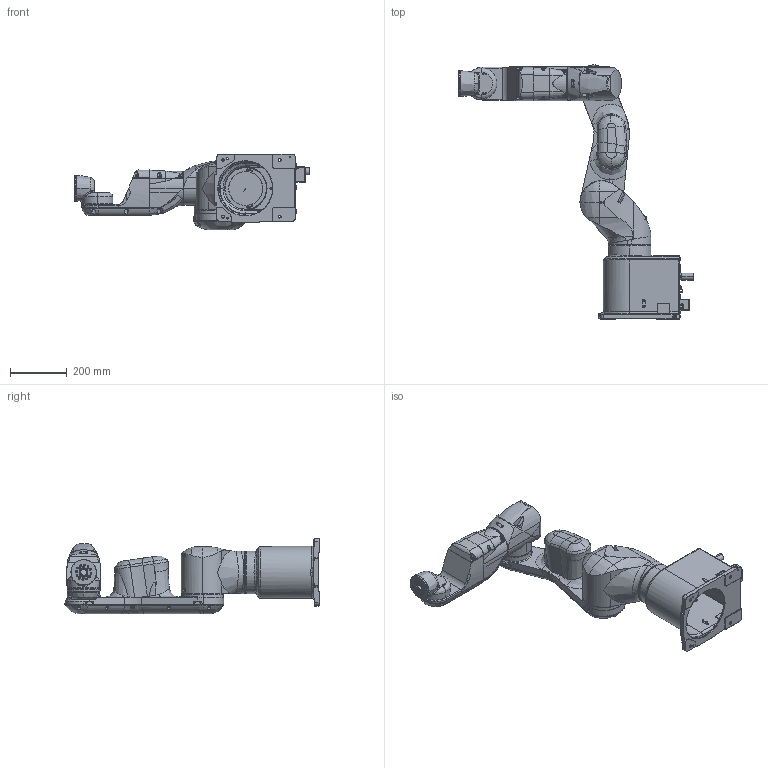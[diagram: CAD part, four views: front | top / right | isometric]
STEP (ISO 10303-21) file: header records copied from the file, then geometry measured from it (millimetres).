
FILE_DESCRIPTION (( 'STEP AP214' ), '1' );
FILE_NAME ('VT6-A901S.STEP', '2019-03-23T02:34:35', ( '' ), ( '' ), 'SwSTEP 2.0', 'SolidWorks 2013', '' );
FILE_SCHEMA (( 'AUTOMOTIVE_DESIGN' ));
Length unit declared in the file: millimetre
Products named in the file (8): _VT6-A901S_base; VT6-A901S; _VT6-A901S_j6; _VT6-A901S_j5; _VT6-A901S_j4; _VT6-A901S_j3; _VT6-A901S_j2; _VT6-A901S_j1
Assembly tree (7 placements, depth 2):
  VT6-A901S
    _VT6-A901S_base
    _VT6-A901S_j1
    _VT6-A901S_j2
    _VT6-A901S_j3
    _VT6-A901S_j4
    _VT6-A901S_j5
    _VT6-A901S_j6
Bounding box: 828.9 x 897.44 x 266.8 mm (x, y, z)
Volume: 29778898.2 mm3; surface area: 1284609 mm2
Topology: 7 solids, 7 shells, 3251 faces, 8271 edges, 5308 vertices
Faces by surface type: plane 1570, cylinder 1088, cone 319, bspline 274
Entity records: 151535 total; most frequent: CARTESIAN_POINT 38688, ORIENTED_EDGE 16414, DIRECTION 15455, EDGE_CURVE 8207, AXIS2_PLACEMENT_3D 5464, VERTEX_POINT 5308, LINE 4527, VECTOR 4527
